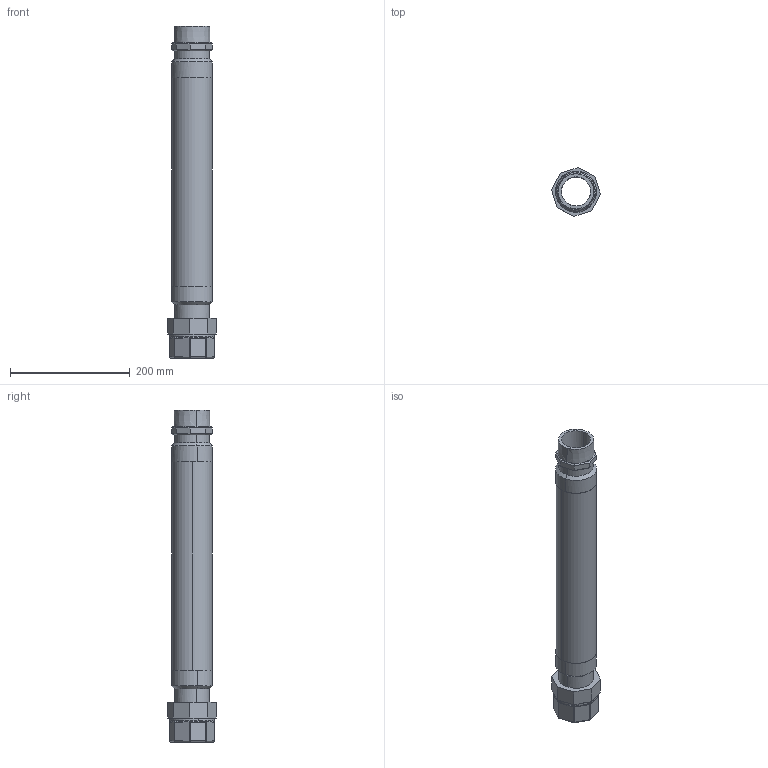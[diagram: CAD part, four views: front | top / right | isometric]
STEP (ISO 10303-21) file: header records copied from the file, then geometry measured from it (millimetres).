
FILE_DESCRIPTION (( 'STEP AP203' ), '1' );
FILE_NAME ('KP_T50-4S.step', '2011-08-08T11:47:01', ( '' ), ( '' ), 'SwSTEP 2.0', 'SolidWorks 2011', '' );
FILE_SCHEMA (( 'CONFIG_CONTROL_DESIGN' ));
Length unit declared in the file: millimetre
Products named in the file (1): KP_T50-4S
Bounding box: 81.51 x 81.51 x 553.8 mm (x, y, z)
Volume: 817830.1 mm3; surface area: 223514.7 mm2
Topology: 1 solids, 1 shells, 154 faces, 336 edges, 193 vertices
Faces by surface type: plane 63, cylinder 55, sphere 18, cone 14, torus 4
Entity records: 4700 total; most frequent: CARTESIAN_POINT 1298, DIRECTION 729, ORIENTED_EDGE 656, EDGE_CURVE 328, AXIS2_PLACEMENT_3D 274, VERTEX_POINT 189, LINE 181, VECTOR 181
